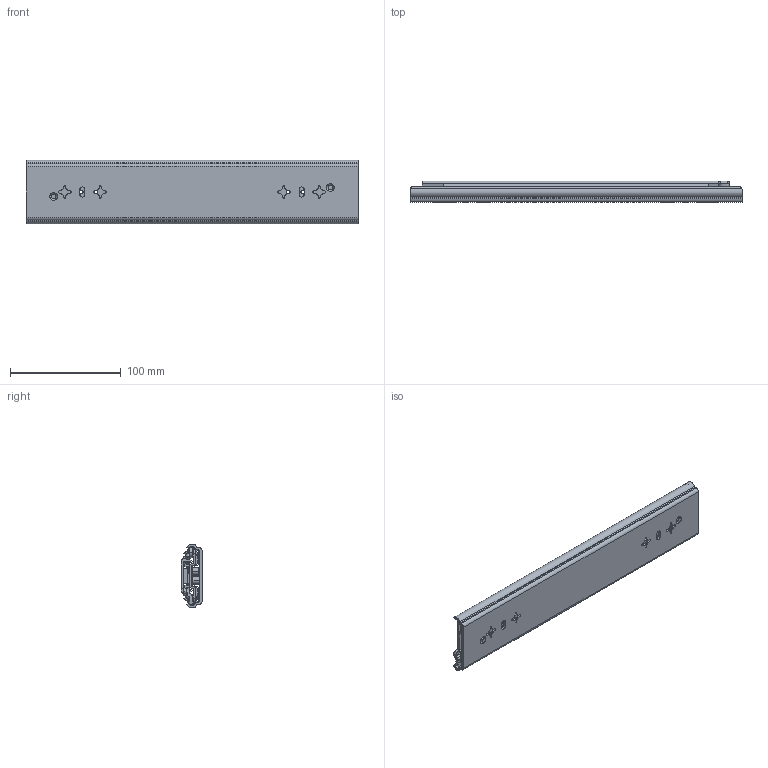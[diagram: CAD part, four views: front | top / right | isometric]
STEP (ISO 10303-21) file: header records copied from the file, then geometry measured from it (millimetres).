
FILE_DESCRIPTION((''),'2;1');
FILE_NAME('1057-C-12_ASM','2025-10-22T',('蔽翩'),(''),'CREO PARAMETRIC BY PTC INC, 2018220','CREO PARAMETRIC BY PTC INC, 2018220','');
FILE_SCHEMA(('CONFIG_CONTROL_DESIGN'));
Length unit declared in the file: millimetre
Products named in the file (20): KP-57-01WEIKE-31____; MAODING-WAI____; 1057DAZHUJIA-20GE1____; 1057ZHUJIADANWEIJIAO123; 1057-5-6GANZHU1____; 1057DAZHUJIA-20GE_11________ASM; 1057-C-20-KE_____ASM; KP-57-01ZHONGGUI-28_________; PEIJIAN-22____; ZHUANJIAO112____; LIUJIAO-DING11____; 1057-XIAOJIAOLUN; PEIJIAN-ZHONG_____ASM; 1057XIAOZHUJIA___20_____; 1057XIAOZHUJIA-20GE______ASM; KP-57-01ZHONGGUI-28__________ASM; KP-57-01NEIGUI-241____; XIN-JIAOGUAN; KP-57-01NEIGUI-241_____ASM; 1057-C-12_ASM
Assembly tree (50 placements, depth 4):
  1057-C-12_ASM
    1057-C-20-KE_____ASM
      KP-57-01WEIKE-31____
      MAODING-WAI____  x2
      1057DAZHUJIA-20GE_11________ASM
        1057DAZHUJIA-20GE1____
        1057ZHUJIADANWEIJIAO123  x2
        1057-5-6GANZHU1____  x12
    KP-57-01ZHONGGUI-28__________ASM
      KP-57-01ZHONGGUI-28_________
      PEIJIAN-ZHONG_____ASM  x2
        PEIJIAN-22____
        ZHUANJIAO112____
        LIUJIAO-DING11____
        1057-XIAOJIAOLUN
      MAODING-WAI____  x2
      1057XIAOZHUJIA-20GE______ASM
        1057XIAOZHUJIA___20_____
        1057-5-6GANZHU1____  x12
        1057ZHUJIADANWEIJIAO123  x2
    KP-57-01NEIGUI-241_____ASM
      KP-57-01NEIGUI-241____
      XIN-JIAOGUAN  x2
Bounding box: 300 x 19.8 x 57.67 mm (x, y, z)
Volume: 121406.1 mm3; surface area: 137020.3 mm2
Topology: 47 solids, 47 shells, 1574 faces, 4264 edges, 2682 vertices
Faces by surface type: plane 708, cylinder 596, torus 96, bspline 66, sphere 54, cone 46, extrusion 8
Entity records: 39246 total; most frequent: CARTESIAN_POINT 9048, DIRECTION 6380, ORIENTED_EDGE 6226, EDGE_CURVE 3113, AXIS2_PLACEMENT_3D 2236, VERTEX_POINT 2003, VECTOR 1908, LINE 1904
